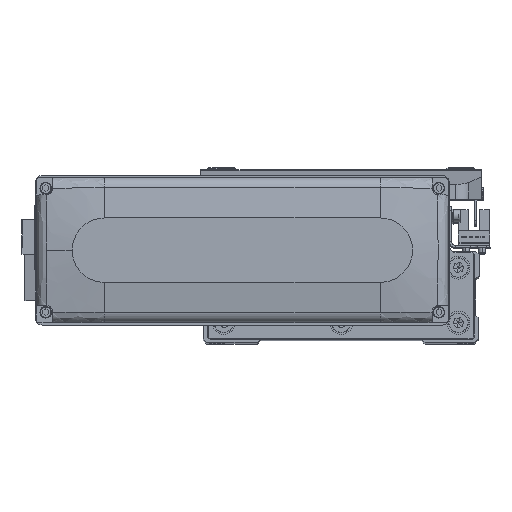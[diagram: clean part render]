
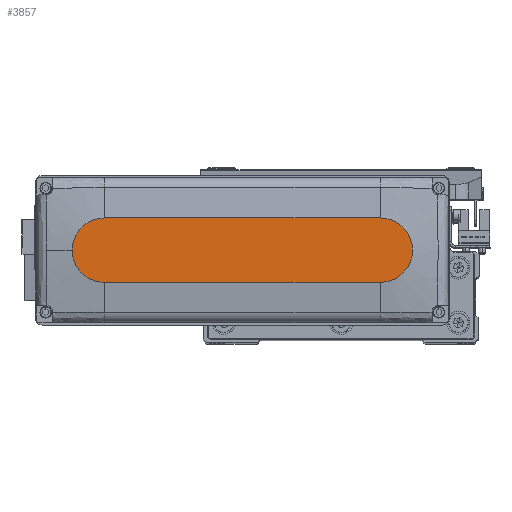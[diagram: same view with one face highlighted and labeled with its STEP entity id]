
A CAD part, top view. The second image highlights one B-rep face of the part: STEP entity #3857.
In plain terms, the highlighted planar face has unit normal (0, 0, 1).
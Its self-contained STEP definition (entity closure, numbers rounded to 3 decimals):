
#364 = EDGE_CURVE ( 'NONE', #32436, #30635, #20840, .T. ) ;
#729 = ORIENTED_EDGE ( 'NONE', *, *, #34719, .T. ) ;
#1758 = DIRECTION ( 'NONE',  ( 1., 0., 0. ) ) ;
#2168 = ORIENTED_EDGE ( 'NONE', *, *, #364, .T. ) ;
#2341 = AXIS2_PLACEMENT_3D ( 'NONE', #4214, #27530, #7904 ) ;
#3857 = ADVANCED_FACE ( 'NONE', ( #34053 ), #21399, .T. ) ;
#4214 = CARTESIAN_POINT ( 'NONE',  ( 0., 0., 28.5 ) ) ;
#4730 = VERTEX_POINT ( 'NONE', #5865 ) ;
#5865 = CARTESIAN_POINT ( 'NONE',  ( 74., 0., 28.5 ) ) ;
#6748 = DIRECTION ( 'NONE',  ( 1., 0., 0. ) ) ;
#7904 = DIRECTION ( 'NONE',  ( 1., 0., 0. ) ) ;
#9272 = DIRECTION ( 'NONE',  ( 0., 0., 1. ) ) ;
#10467 = CIRCLE ( 'NONE', #16737, 14. ) ;
#10968 = EDGE_LOOP ( 'NONE', ( #2168, #38039, #42791, #729, #12770 ) ) ;
#12537 = DIRECTION ( 'NONE',  ( 1., 0., 0. ) ) ;
#12706 = CARTESIAN_POINT ( 'NONE',  ( -60., 14., 28.5 ) ) ;
#12770 = ORIENTED_EDGE ( 'NONE', *, *, #41536, .T. ) ;
#14134 = CARTESIAN_POINT ( 'NONE',  ( 60., 0., 28.5 ) ) ;
#15245 = CARTESIAN_POINT ( 'NONE',  ( 60., 0., 28.5 ) ) ;
#16737 = AXIS2_PLACEMENT_3D ( 'NONE', #28893, #9272, #12537 ) ;
#17124 = CIRCLE ( 'NONE', #40787, 14. ) ;
#19827 = DIRECTION ( 'NONE',  ( 0., 0., 1. ) ) ;
#20689 = DIRECTION ( 'NONE',  ( 1., 0., 0. ) ) ;
#20840 = LINE ( 'NONE', #21269, #36477 ) ;
#21269 = CARTESIAN_POINT ( 'NONE',  ( -60., 14., 28.5 ) ) ;
#21399 = PLANE ( 'NONE',  #2341 ) ;
#22343 = EDGE_CURVE ( 'NONE', #30635, #33601, #10467, .T. ) ;
#22439 = LINE ( 'NONE', #35732, #37043 ) ;
#22614 = CARTESIAN_POINT ( 'NONE',  ( 60., 14., 28.5 ) ) ;
#23099 = CIRCLE ( 'NONE', #26585, 14. ) ;
#24707 = CARTESIAN_POINT ( 'NONE',  ( 60., -14., 28.5 ) ) ;
#26585 = AXIS2_PLACEMENT_3D ( 'NONE', #15245, #28997, #1758 ) ;
#27530 = DIRECTION ( 'NONE',  ( 0., 0., 1. ) ) ;
#28893 = CARTESIAN_POINT ( 'NONE',  ( -60., 0., 28.5 ) ) ;
#28997 = DIRECTION ( 'NONE',  ( 0., 0., 1. ) ) ;
#30466 = VERTEX_POINT ( 'NONE', #24707 ) ;
#30635 = VERTEX_POINT ( 'NONE', #12706 ) ;
#32436 = VERTEX_POINT ( 'NONE', #22614 ) ;
#33601 = VERTEX_POINT ( 'NONE', #37676 ) ;
#34053 = FACE_OUTER_BOUND ( 'NONE', #10968, .T. ) ;
#34131 = DIRECTION ( 'NONE',  ( -1., 0., 0. ) ) ;
#34719 = EDGE_CURVE ( 'NONE', #30466, #4730, #17124, .T. ) ;
#35732 = CARTESIAN_POINT ( 'NONE',  ( -60., -14., 28.5 ) ) ;
#36477 = VECTOR ( 'NONE', #34131, 1000. ) ;
#37043 = VECTOR ( 'NONE', #6748, 1000. ) ;
#37676 = CARTESIAN_POINT ( 'NONE',  ( -60., -14., 28.5 ) ) ;
#38039 = ORIENTED_EDGE ( 'NONE', *, *, #22343, .T. ) ;
#40787 = AXIS2_PLACEMENT_3D ( 'NONE', #14134, #19827, #20689 ) ;
#41536 = EDGE_CURVE ( 'NONE', #4730, #32436, #23099, .T. ) ;
#41611 = EDGE_CURVE ( 'NONE', #33601, #30466, #22439, .T. ) ;
#42791 = ORIENTED_EDGE ( 'NONE', *, *, #41611, .T. ) ;
